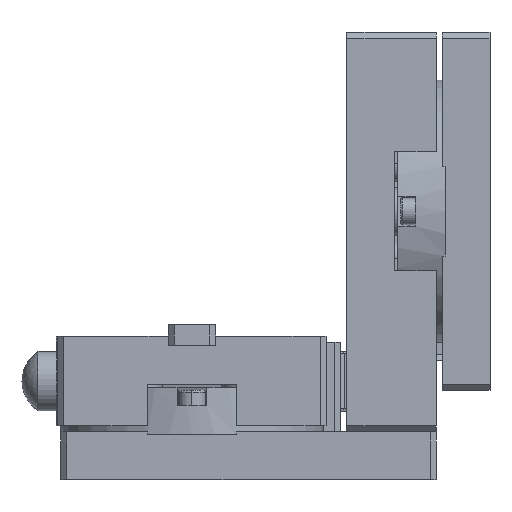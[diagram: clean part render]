
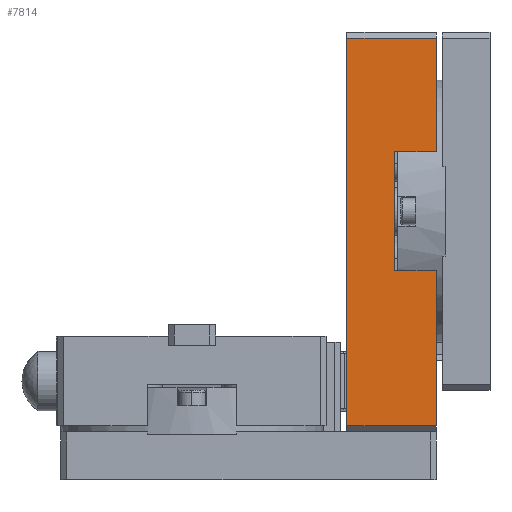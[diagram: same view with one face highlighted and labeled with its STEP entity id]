
A CAD part, left-side view. The second image highlights one B-rep face of the part: STEP entity #7814.
In plain terms, the highlighted planar face has unit normal (-1, 0, 0).
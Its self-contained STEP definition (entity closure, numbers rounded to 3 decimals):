
#945 = CARTESIAN_POINT ( 'NONE',  ( 0., 24., -36. ) ) ;
#1275 = LINE ( 'NONE', #23626, #4349 ) ;
#1633 = DIRECTION ( 'NONE',  ( 0., 0., -1. ) ) ;
#1969 = LINE ( 'NONE', #16207, #30095 ) ;
#2055 = PLANE ( 'NONE',  #5854 ) ;
#2203 = CARTESIAN_POINT ( 'NONE',  ( 0., 24., -30. ) ) ;
#2327 = ORIENTED_EDGE ( 'NONE', *, *, #4702, .F. ) ;
#2585 = LINE ( 'NONE', #7512, #28123 ) ;
#3064 = DIRECTION ( 'NONE',  ( 0., -1., 0. ) ) ;
#3105 = DIRECTION ( 'NONE',  ( 0., -1., 0. ) ) ;
#3727 = LINE ( 'NONE', #18817, #7389 ) ;
#4124 = CARTESIAN_POINT ( 'NONE',  ( 0., 24., 29. ) ) ;
#4307 = VECTOR ( 'NONE', #31429, 1000. ) ;
#4349 = VECTOR ( 'NONE', #21135, 1000. ) ;
#4493 = DIRECTION ( 'NONE',  ( 0., 0., 1. ) ) ;
#4547 = EDGE_LOOP ( 'NONE', ( #5238, #20386, #10495, #8407, #27699, #2327, #16021, #23948 ) ) ;
#4702 = EDGE_CURVE ( 'NONE', #10211, #13101, #20670, .T. ) ;
#5109 = LINE ( 'NONE', #6814, #29313 ) ;
#5238 = ORIENTED_EDGE ( 'NONE', *, *, #28991, .T. ) ;
#5653 = VERTEX_POINT ( 'NONE', #26745 ) ;
#5854 = AXIS2_PLACEMENT_3D ( 'NONE', #2203, #27634, #27475 ) ;
#6378 = DIRECTION ( 'NONE',  ( 0., 0., -1. ) ) ;
#6814 = CARTESIAN_POINT ( 'NONE',  ( 0., 9., 30. ) ) ;
#7389 = VECTOR ( 'NONE', #6378, 1000. ) ;
#7512 = CARTESIAN_POINT ( 'NONE',  ( 0., 24., 10. ) ) ;
#7814 = ADVANCED_FACE ( 'NONE', ( #9449 ), #2055, .F. ) ;
#8407 = ORIENTED_EDGE ( 'NONE', *, *, #14312, .T. ) ;
#9449 = FACE_OUTER_BOUND ( 'NONE', #4547, .T. ) ;
#10211 = VERTEX_POINT ( 'NONE', #4124 ) ;
#10495 = ORIENTED_EDGE ( 'NONE', *, *, #28031, .F. ) ;
#11331 = VECTOR ( 'NONE', #3105, 1000. ) ;
#12475 = VERTEX_POINT ( 'NONE', #15875 ) ;
#13101 = VERTEX_POINT ( 'NONE', #25977 ) ;
#13595 = CARTESIAN_POINT ( 'NONE',  ( 0., 9., 10. ) ) ;
#14312 = EDGE_CURVE ( 'NONE', #12475, #30437, #2585, .T. ) ;
#14429 = VERTEX_POINT ( 'NONE', #27016 ) ;
#15875 = CARTESIAN_POINT ( 'NONE',  ( 0., 16., 10. ) ) ;
#16021 = ORIENTED_EDGE ( 'NONE', *, *, #21958, .T. ) ;
#16179 = LINE ( 'NONE', #23949, #26351 ) ;
#16207 = CARTESIAN_POINT ( 'NONE',  ( 0., 24., -30. ) ) ;
#18817 = CARTESIAN_POINT ( 'NONE',  ( 0., 16., -30. ) ) ;
#19155 = LINE ( 'NONE', #945, #4307 ) ;
#19805 = VERTEX_POINT ( 'NONE', #20498 ) ;
#20386 = ORIENTED_EDGE ( 'NONE', *, *, #30434, .F. ) ;
#20498 = CARTESIAN_POINT ( 'NONE',  ( 0., 16., -10. ) ) ;
#20670 = LINE ( 'NONE', #25606, #11331 ) ;
#21043 = VERTEX_POINT ( 'NONE', #28187 ) ;
#21135 = DIRECTION ( 'NONE',  ( 0., -1., 0. ) ) ;
#21958 = EDGE_CURVE ( 'NONE', #10211, #14429, #1969, .T. ) ;
#23626 = CARTESIAN_POINT ( 'NONE',  ( 0., 24., -10. ) ) ;
#23948 = ORIENTED_EDGE ( 'NONE', *, *, #28917, .F. ) ;
#23949 = CARTESIAN_POINT ( 'NONE',  ( 0., 9., -30. ) ) ;
#25606 = CARTESIAN_POINT ( 'NONE',  ( 0., 24., 29. ) ) ;
#25977 = CARTESIAN_POINT ( 'NONE',  ( 0., 9., 29. ) ) ;
#26351 = VECTOR ( 'NONE', #28502, 1000. ) ;
#26477 = EDGE_CURVE ( 'NONE', #30437, #13101, #5109, .T. ) ;
#26745 = CARTESIAN_POINT ( 'NONE',  ( 0., 9., -10. ) ) ;
#27016 = CARTESIAN_POINT ( 'NONE',  ( 0., 24., -36. ) ) ;
#27475 = DIRECTION ( 'NONE',  ( 0., 0., 1. ) ) ;
#27634 = DIRECTION ( 'NONE',  ( 1., 0., 0. ) ) ;
#27699 = ORIENTED_EDGE ( 'NONE', *, *, #26477, .T. ) ;
#28031 = EDGE_CURVE ( 'NONE', #12475, #19805, #3727, .T. ) ;
#28123 = VECTOR ( 'NONE', #3064, 1000. ) ;
#28187 = CARTESIAN_POINT ( 'NONE',  ( 0., 9., -36. ) ) ;
#28502 = DIRECTION ( 'NONE',  ( 0., 0., 1. ) ) ;
#28917 = EDGE_CURVE ( 'NONE', #21043, #14429, #19155, .T. ) ;
#28991 = EDGE_CURVE ( 'NONE', #21043, #5653, #16179, .T. ) ;
#29313 = VECTOR ( 'NONE', #4493, 1000. ) ;
#30095 = VECTOR ( 'NONE', #1633, 1000. ) ;
#30434 = EDGE_CURVE ( 'NONE', #19805, #5653, #1275, .T. ) ;
#30437 = VERTEX_POINT ( 'NONE', #13595 ) ;
#31429 = DIRECTION ( 'NONE',  ( 0., 1., 0. ) ) ;
